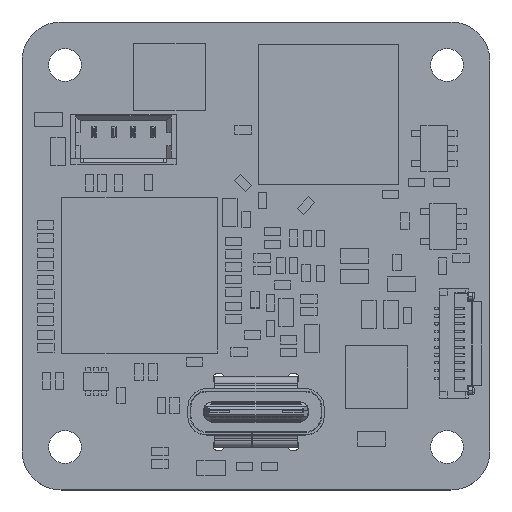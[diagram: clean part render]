
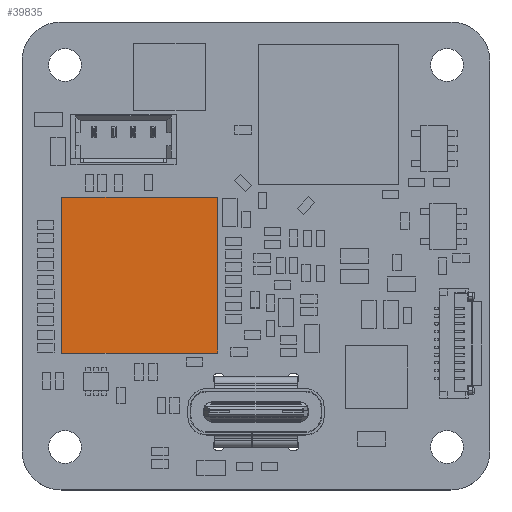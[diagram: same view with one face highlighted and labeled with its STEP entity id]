
A CAD part, top view. The second image highlights one B-rep face of the part: STEP entity #39835.
In plain terms, the highlighted planar face has unit normal (0, 0, 1).
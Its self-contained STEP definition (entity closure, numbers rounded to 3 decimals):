
#39706 = VERTEX_POINT('',#39707);
#39707 = CARTESIAN_POINT('',(12.544,8.78,1.2)
  );
#39713 = EDGE_CURVE('',#39706,#39714,#39716,.T.);
#39714 = VERTEX_POINT('',#39715);
#39715 = CARTESIAN_POINT('',(12.544,18.78,1.2)
  );
#39716 = LINE('',#39717,#39718);
#39717 = CARTESIAN_POINT('',(12.544,8.78,1.2)
  );
#39718 = VECTOR('',#39719,1.);
#39719 = DIRECTION('',(0.,1.,0.));
#39744 = EDGE_CURVE('',#39714,#39745,#39747,.T.);
#39745 = VERTEX_POINT('',#39746);
#39746 = CARTESIAN_POINT('',(2.544,18.78,1.2)
  );
#39747 = LINE('',#39748,#39749);
#39748 = CARTESIAN_POINT('',(12.544,18.78,1.2)
  );
#39749 = VECTOR('',#39750,1.);
#39750 = DIRECTION('',(-1.,0.,0.));
#39775 = EDGE_CURVE('',#39745,#39776,#39778,.T.);
#39776 = VERTEX_POINT('',#39777);
#39777 = CARTESIAN_POINT('',(2.544,8.78,1.2));
#39778 = LINE('',#39779,#39780);
#39779 = CARTESIAN_POINT('',(2.544,18.78,1.2)
  );
#39780 = VECTOR('',#39781,1.);
#39781 = DIRECTION('',(0.,-1.,0.));
#39806 = EDGE_CURVE('',#39776,#39706,#39807,.T.);
#39807 = LINE('',#39808,#39809);
#39808 = CARTESIAN_POINT('',(2.544,8.78,1.2));
#39809 = VECTOR('',#39810,1.);
#39810 = DIRECTION('',(1.,0.,0.));
#39835 = ADVANCED_FACE('',(#39836),#39842,.F.);
#39836 = FACE_BOUND('',#39837,.T.);
#39837 = EDGE_LOOP('',(#39838,#39839,#39840,#39841));
#39838 = ORIENTED_EDGE('',*,*,#39713,.T.);
#39839 = ORIENTED_EDGE('',*,*,#39744,.T.);
#39840 = ORIENTED_EDGE('',*,*,#39775,.T.);
#39841 = ORIENTED_EDGE('',*,*,#39806,.T.);
#39842 = PLANE('',#39843);
#39843 = AXIS2_PLACEMENT_3D('',#39844,#39845,#39846);
#39844 = CARTESIAN_POINT('',(12.544,8.78,1.2)
  );
#39845 = DIRECTION('',(0.,0.,-1.));
#39846 = DIRECTION('',(-1.,0.,0.));
